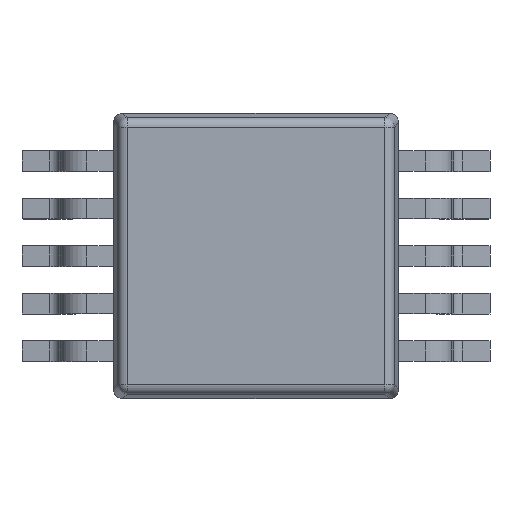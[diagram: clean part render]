
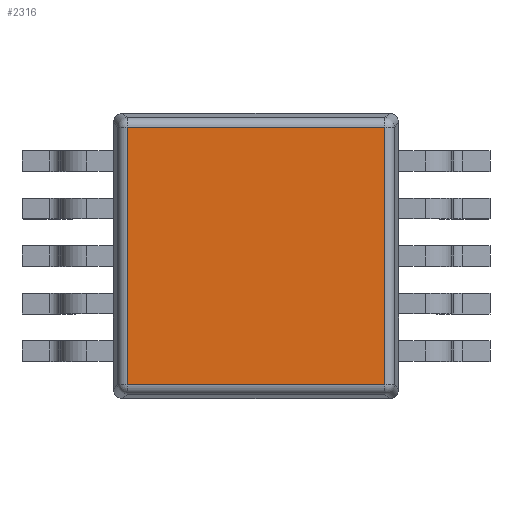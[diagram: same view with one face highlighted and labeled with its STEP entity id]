
A CAD part, top view. The second image highlights one B-rep face of the part: STEP entity #2316.
In plain terms, the highlighted planar face has unit normal (0, 0, 1) as drawn and (0, 1, 0) by its records, which use the part's own axes.
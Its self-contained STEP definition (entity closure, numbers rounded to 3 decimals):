
#564=DIRECTION('',(0.,0.,1.));
#565=VECTOR('',#564,2.712);
#566=CARTESIAN_POINT('',(-1.356,0.342,-1.356));
#567=LINE('',#566,#565);
#578=DIRECTION('',(1.,0.,0.));
#579=VECTOR('',#578,2.712);
#580=CARTESIAN_POINT('',(-1.356,0.342,1.356));
#581=LINE('',#580,#579);
#1670=DIRECTION('',(0.,0.,-1.));
#1671=VECTOR('',#1670,2.712);
#1672=CARTESIAN_POINT('',(1.356,0.342,1.356));
#1673=LINE('',#1672,#1671);
#1708=DIRECTION('',(-1.,0.,0.));
#1709=VECTOR('',#1708,2.712);
#1710=CARTESIAN_POINT('',(1.356,0.342,-1.356));
#1711=LINE('',#1710,#1709);
#1722=CARTESIAN_POINT('',(1.356,0.342,1.356));
#1723=CARTESIAN_POINT('',(1.356,0.342,-1.356));
#1724=VERTEX_POINT('',#1722);
#1725=VERTEX_POINT('',#1723);
#1730=CARTESIAN_POINT('',(-1.356,0.342,-1.356));
#1731=VERTEX_POINT('',#1730);
#1736=CARTESIAN_POINT('',(-1.356,0.342,1.356));
#1737=VERTEX_POINT('',#1736);
#2302=CARTESIAN_POINT('',(0.,0.342,0.));
#2303=DIRECTION('',(0.,1.,0.));
#2304=DIRECTION('',(1.,0.,0.));
#2305=AXIS2_PLACEMENT_3D('',#2302,#2303,#2304);
#2306=PLANE('',#2305);
#2308=ORIENTED_EDGE('',*,*,#2307,.F.);
#2309=ORIENTED_EDGE('',*,*,#2293,.F.);
#2311=ORIENTED_EDGE('',*,*,#2310,.F.);
#2313=ORIENTED_EDGE('',*,*,#2312,.F.);
#2314=EDGE_LOOP('',(#2308,#2309,#2311,#2313));
#2315=FACE_OUTER_BOUND('',#2314,.F.);
#2316=ADVANCED_FACE('',(#2315),#2306,.T.);
#2293=EDGE_CURVE('',#1731,#1737,#567,.T.);
#2307=EDGE_CURVE('',#1737,#1724,#581,.T.);
#2310=EDGE_CURVE('',#1725,#1731,#1711,.T.);
#2312=EDGE_CURVE('',#1724,#1725,#1673,.T.);
